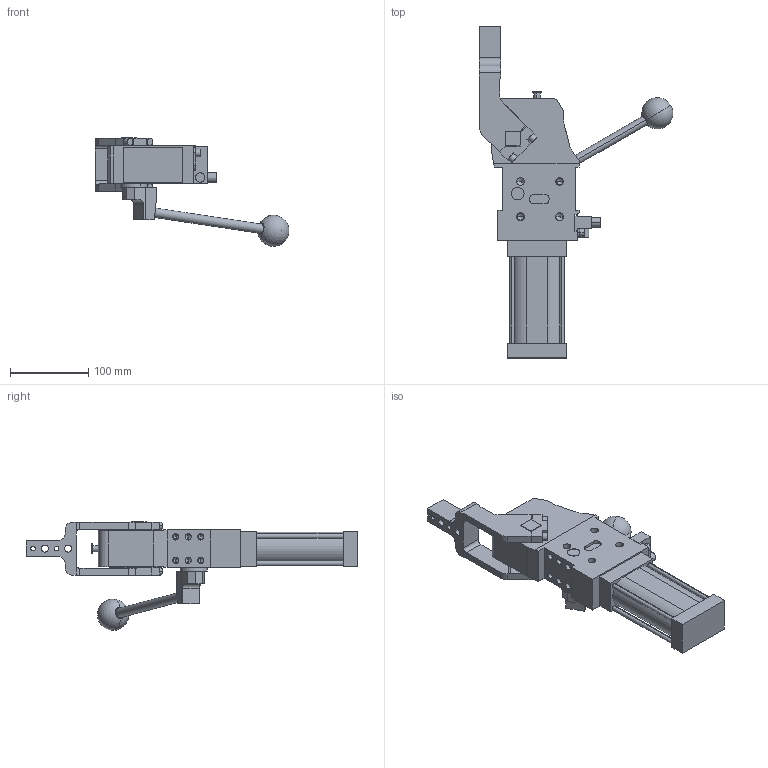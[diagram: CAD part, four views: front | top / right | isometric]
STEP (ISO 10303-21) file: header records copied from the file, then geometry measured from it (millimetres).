
FILE_DESCRIPTION (( 'STEP AP214' ), '1' );
FILE_NAME ('cplm50lah1ci1g_107.STEP', '2023-01-26T13:16:48', ( '' ), ( '' ), 'SwSTEP 2.0', 'SolidWorks 2022', '' );
FILE_SCHEMA (( 'AUTOMOTIVE_DESIGN' ));
Length unit declared in the file: millimetre
Products named in the file (6): meccanica_cplm_50; blocchetto_VEP_90; leva_cx_offset_15_cpl50; blocchetto_VEP_0; comando_manuale_cplm_50; cplm50lah1ci1g_107
Assembly tree (5 placements, depth 2):
  cplm50lah1ci1g_107
    meccanica_cplm_50
    blocchetto_VEP_0
    leva_cx_offset_15_cpl50
    blocchetto_VEP_90
    comando_manuale_cplm_50
Bounding box: 247.96 x 424.5 x 139 mm (x, y, z)
Volume: 1478824.7 mm3; surface area: 185691.8 mm2
Topology: 5 solids, 5 shells, 455 faces, 1166 edges, 729 vertices
Faces by surface type: plane 230, cylinder 173, cone 50, sphere 2
Entity records: 15111 total; most frequent: DIRECTION 2407, CARTESIAN_POINT 2374, ORIENTED_EDGE 2230, EDGE_CURVE 1115, AXIS2_PLACEMENT_3D 833, VECTOR 741, LINE 741, VERTEX_POINT 726
